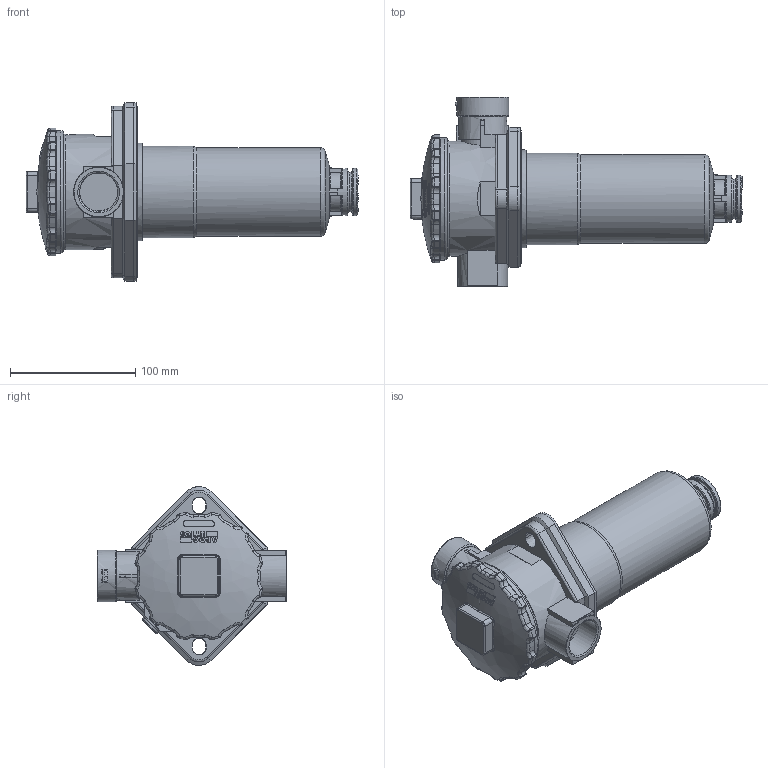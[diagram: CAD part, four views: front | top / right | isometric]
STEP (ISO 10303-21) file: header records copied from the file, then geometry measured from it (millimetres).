
FILE_DESCRIPTION((''),'2;1');
FILE_NAME('U:\Users\t.schleuter\Ruecklauffilter13296800(235306).stp','2013-04-12T12:48:39',('User'),('SDRC'),'I-DEAS Master Series 9','UNIX','Yes');
FILE_SCHEMA(('AUTOMOTIVE_DESIGN { 1 0 10303 214 1 1 1 1 }'));
Length unit declared in the file: millimetre
Products named in the file (1): 13296800(235306)
Bounding box: 265.1 x 151.5 x 142.65 mm (x, y, z)
Volume: 1286943.3 mm3; surface area: 109112.8 mm2
Topology: 1 solids, 10 shells, 812 faces, 2118 edges, 1340 vertices
Faces by surface type: bspline 812
Entity records: 27902 total; most frequent: CARTESIAN_POINT 15847, ORIENTED_EDGE 4156, EDGE_CURVE 2078, VERTEX_POINT 1314, B_SPLINE_CURVE_WITH_KNOTS 1055, EDGE_LOOP 846, FACE_OUTER_BOUND 812, ADVANCED_FACE 812
